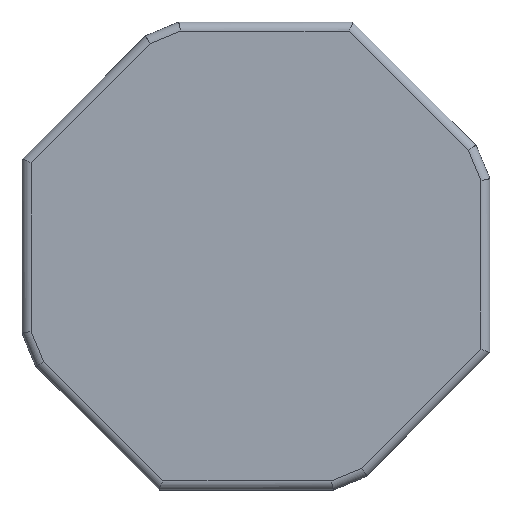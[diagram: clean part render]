
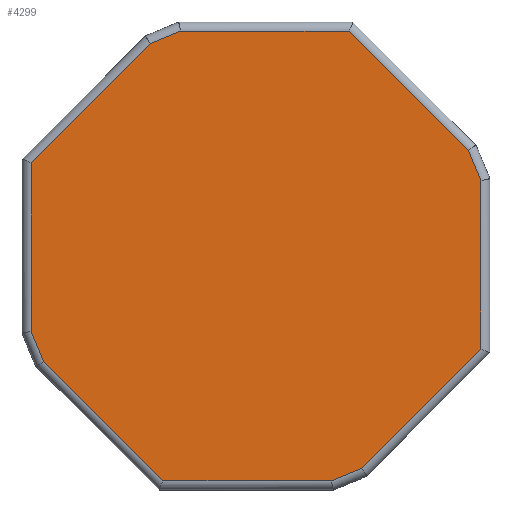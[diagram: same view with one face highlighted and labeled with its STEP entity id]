
A CAD part, top view. The second image highlights one B-rep face of the part: STEP entity #4299.
In plain terms, the highlighted planar face has unit normal (0, 0, 1).
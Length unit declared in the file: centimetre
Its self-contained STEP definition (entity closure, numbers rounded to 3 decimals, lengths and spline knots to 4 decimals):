
#636=PLANE('',#4594);
#755=VECTOR('',#4860,1.);
#757=VECTOR('',#4866,1.);
#759=VECTOR('',#4874,1.);
#760=VECTOR('',#4879,1.);
#762=VECTOR('',#4887,1.);
#764=VECTOR('',#4893,1.);
#766=VECTOR('',#4901,1.);
#767=VECTOR('',#4906,1.);
#770=VECTOR('',#4911,1.);
#771=VECTOR('',#4914,1.);
#774=VECTOR('',#4919,1.);
#775=VECTOR('',#4924,1.);
#955=LINE('',#6367,#755);
#957=LINE('',#6373,#757);
#959=LINE('',#6381,#759);
#960=LINE('',#6385,#760);
#962=LINE('',#6394,#762);
#964=LINE('',#6400,#764);
#966=LINE('',#6409,#766);
#967=LINE('',#6413,#767);
#970=LINE('',#6417,#770);
#971=LINE('',#6419,#771);
#974=LINE('',#6424,#774);
#975=LINE('',#6428,#775);
#1308=VERTEX_POINT('',#6366);
#1309=VERTEX_POINT('',#6368);
#1311=VERTEX_POINT('',#6374);
#1313=VERTEX_POINT('',#6380);
#1314=VERTEX_POINT('',#6382);
#1315=VERTEX_POINT('',#6386);
#1318=VERTEX_POINT('',#6393);
#1319=VERTEX_POINT('',#6395);
#1321=VERTEX_POINT('',#6401);
#1324=VERTEX_POINT('',#6408);
#1325=VERTEX_POINT('',#6410);
#1327=VERTEX_POINT('',#6425);
#1852=EDGE_CURVE('',#1308,#1309,#955,.T.);
#1855=EDGE_CURVE('',#1309,#1311,#957,.T.);
#1859=EDGE_CURVE('',#1313,#1314,#959,.T.);
#1861=EDGE_CURVE('',#1315,#1313,#960,.T.);
#1865=EDGE_CURVE('',#1318,#1319,#962,.T.);
#1868=EDGE_CURVE('',#1319,#1321,#964,.T.);
#1872=EDGE_CURVE('',#1324,#1325,#966,.T.);
#1874=EDGE_CURVE('',#1321,#1324,#967,.T.);
#1877=EDGE_CURVE('',#1325,#1315,#970,.T.);
#1878=EDGE_CURVE('',#1311,#1318,#971,.T.);
#1881=EDGE_CURVE('',#1314,#1327,#974,.T.);
#1883=EDGE_CURVE('',#1327,#1308,#975,.T.);
#2699=ORIENTED_EDGE('',*,*,#1872,.F.);
#2700=ORIENTED_EDGE('',*,*,#1874,.F.);
#2701=ORIENTED_EDGE('',*,*,#1868,.F.);
#2702=ORIENTED_EDGE('',*,*,#1865,.F.);
#2703=ORIENTED_EDGE('',*,*,#1878,.F.);
#2704=ORIENTED_EDGE('',*,*,#1855,.F.);
#2705=ORIENTED_EDGE('',*,*,#1852,.F.);
#2706=ORIENTED_EDGE('',*,*,#1883,.F.);
#2707=ORIENTED_EDGE('',*,*,#1881,.F.);
#2708=ORIENTED_EDGE('',*,*,#1859,.F.);
#2709=ORIENTED_EDGE('',*,*,#1861,.F.);
#2710=ORIENTED_EDGE('',*,*,#1877,.F.);
#3791=EDGE_LOOP('',(#2699,#2700,#2701,#2702,#2703,#2704,#2705,#2706,#2707,
#2708,#2709,#2710));
#4045=FACE_BOUND('',#3791,.T.);
#4299=ADVANCED_FACE('',(#4045),#636,.T.);
#4594=AXIS2_PLACEMENT_3D('',#6449,#4943,$);
#4860=DIRECTION('',(0.,-1.,0.));
#4866=DIRECTION('',(-0.707,-0.707,0.));
#4874=DIRECTION('',(1.,0.,0.));
#4879=DIRECTION('',(0.923,0.384,0.));
#4887=DIRECTION('',(-1.,0.,0.));
#4893=DIRECTION('',(-0.707,0.707,0.));
#4901=DIRECTION('',(0.,1.,0.));
#4906=DIRECTION('',(-0.384,0.923,0.));
#4911=DIRECTION('',(0.707,0.707,0.));
#4914=DIRECTION('',(-0.923,-0.384,0.));
#4919=DIRECTION('',(0.707,-0.707,0.));
#4924=DIRECTION('',(0.384,-0.923,0.));
#4943=DIRECTION('',(0.,0.,1.));
#6366=CARTESIAN_POINT('',(3.1623,1.0613,0.3302));
#6367=CARTESIAN_POINT('',(3.1623,0.,0.3302));
#6368=CARTESIAN_POINT('',(3.1623,-1.3099,0.3302));
#6373=CARTESIAN_POINT('',(2.2361,-2.2361,0.3302));
#6374=CARTESIAN_POINT('',(1.4868,-2.9853,0.3302));
#6380=CARTESIAN_POINT('',(-1.0613,3.1623,0.3302));
#6381=CARTESIAN_POINT('',(0.,3.1623,0.3302));
#6382=CARTESIAN_POINT('',(1.3099,3.1623,0.3302));
#6385=CARTESIAN_POINT('',(-1.2776,3.0723,0.3302));
#6386=CARTESIAN_POINT('',(-1.4868,2.9853,0.3302));
#6393=CARTESIAN_POINT('',(1.0613,-3.1623,0.3302));
#6394=CARTESIAN_POINT('',(0.,-3.1623,0.3302));
#6395=CARTESIAN_POINT('',(-1.3099,-3.1623,0.3302));
#6400=CARTESIAN_POINT('',(-2.2361,-2.2361,0.3302));
#6401=CARTESIAN_POINT('',(-2.9853,-1.4868,0.3302));
#6408=CARTESIAN_POINT('',(-3.1623,-1.0613,0.3302));
#6409=CARTESIAN_POINT('',(-3.1623,0.,0.3302));
#6410=CARTESIAN_POINT('',(-3.1623,1.3099,0.3302));
#6413=CARTESIAN_POINT('',(-3.0723,-1.2776,0.3302));
#6417=CARTESIAN_POINT('',(-2.2361,2.2361,0.3302));
#6419=CARTESIAN_POINT('',(1.2776,-3.0723,0.3302));
#6424=CARTESIAN_POINT('',(2.2361,2.2361,0.3302));
#6425=CARTESIAN_POINT('',(2.9853,1.4868,0.3302));
#6428=CARTESIAN_POINT('',(3.0723,1.2776,0.3302));
#6449=CARTESIAN_POINT('',(0.,0.,
0.3302));
